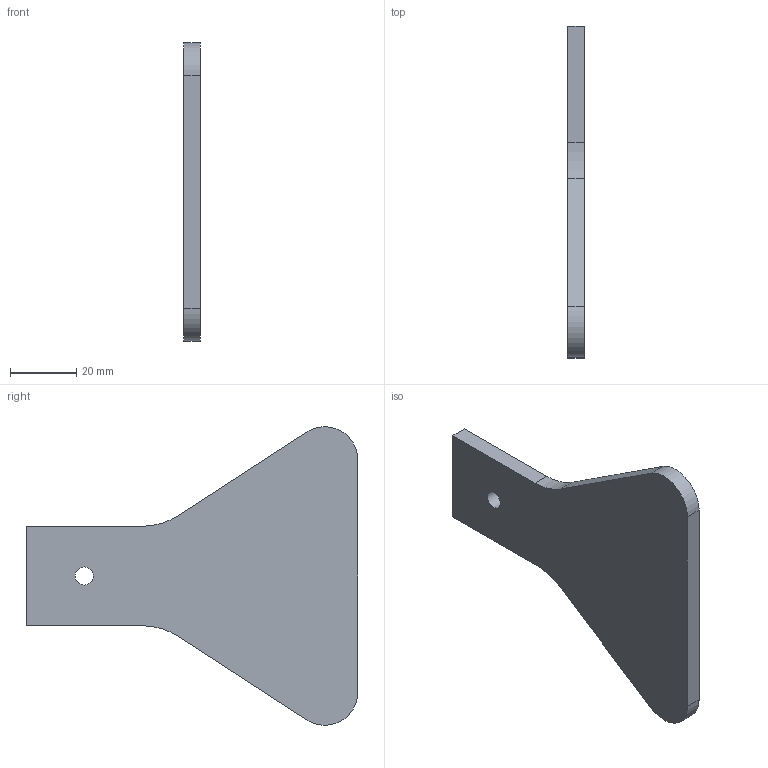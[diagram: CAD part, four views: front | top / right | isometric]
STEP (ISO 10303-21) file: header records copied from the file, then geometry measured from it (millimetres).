
FILE_DESCRIPTION(/* description */ (''),/* implementation_level */ '2;1');
FILE_NAME(/* name */ 'Koncowka_2_PAX v2.step',/* time_stamp */ '2026-04-10T14:22:41+02:00',/* author */ (''),/* organization */ (''),/* preprocessor_version */ 'ST-DEVELOPER v20.1',/* originating_system */ 'Autodesk Translation Framework v14.24.0.0',/* authorisation */ '');
FILE_SCHEMA (('AUTOMOTIVE_DESIGN { 1 0 10303 214 3 1 1 }'));
Length unit declared in the file: millimetre
Products named in the file (1): (Niezapisany)
Bounding box: 5 x 100 x 89.93 mm (x, y, z)
Volume: 25496.3 mm3; surface area: 11926.1 mm2
Topology: 1 solids, 1 shells, 13 faces, 33 edges, 22 vertices
Faces by surface type: plane 8, cylinder 5
Full cylindrical faces by diameter (mm): 5.5 x1
Entity records: 434 total; most frequent: DIRECTION 71, CARTESIAN_POINT 69, ORIENTED_EDGE 66, EDGE_CURVE 33, AXIS2_PLACEMENT_3D 24, LINE 23, VECTOR 23, VERTEX_POINT 22
